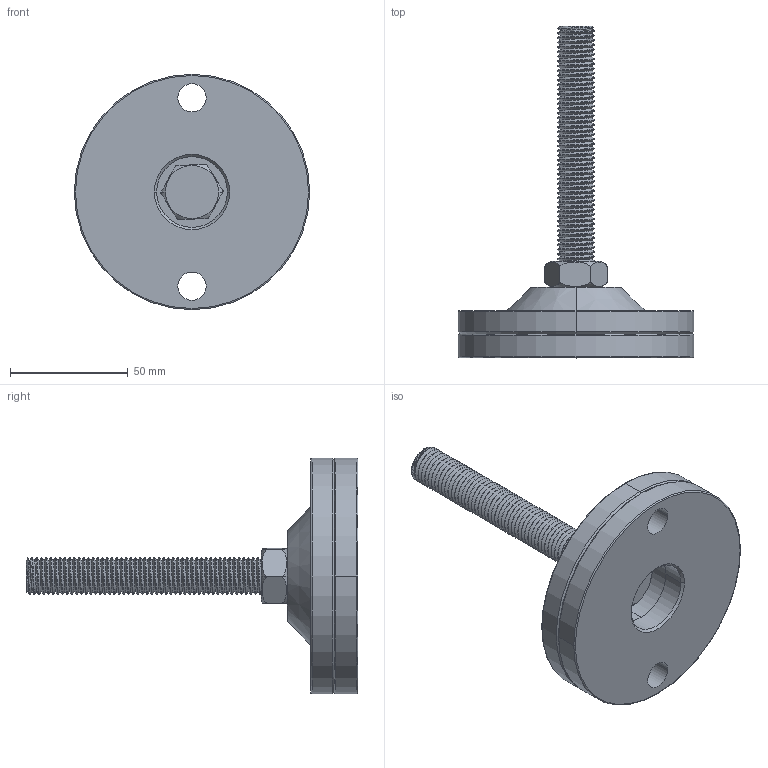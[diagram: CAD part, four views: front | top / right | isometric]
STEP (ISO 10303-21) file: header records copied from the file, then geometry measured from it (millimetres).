
FILE_DESCRIPTION (( 'STEP AP203' ), '1' );
FILE_NAME ('CE-UAF-TPU-D100-M16-100褐戚.STEP', '2016-11-05T03:55:09', ( '' ), ( '' ), 'SwSTEP 2.0', 'SolidWorks 2013', '' );
FILE_SCHEMA (( 'CONFIG_CONTROL_DESIGN' ));
Length unit declared in the file: millimetre
Products named in the file (1): CE-UAF-TPU-D100-M16-100褐戚
Bounding box: 100 x 141 x 100 mm (x, y, z)
Surface area: 50396.9 mm2 (no closed solid volume)
Topology: 0 solids, 5 shells, 188 faces, 543 edges, 362 vertices
Faces by surface type: cylinder 144, plane 14, bspline 12, cone 10, torus 8
Entity records: 12099 total; most frequent: CARTESIAN_POINT 7913, ORIENTED_EDGE 1045, DIRECTION 678, EDGE_CURVE 543, VERTEX_POINT 362, AXIS2_PLACEMENT_3D 258, EDGE_LOOP 202, FACE_OUTER_BOUND 188
